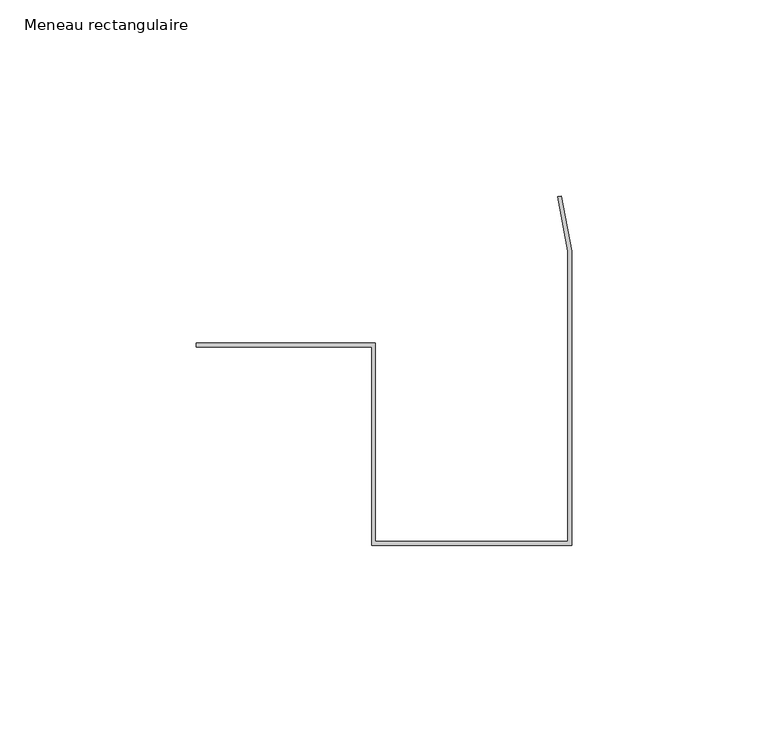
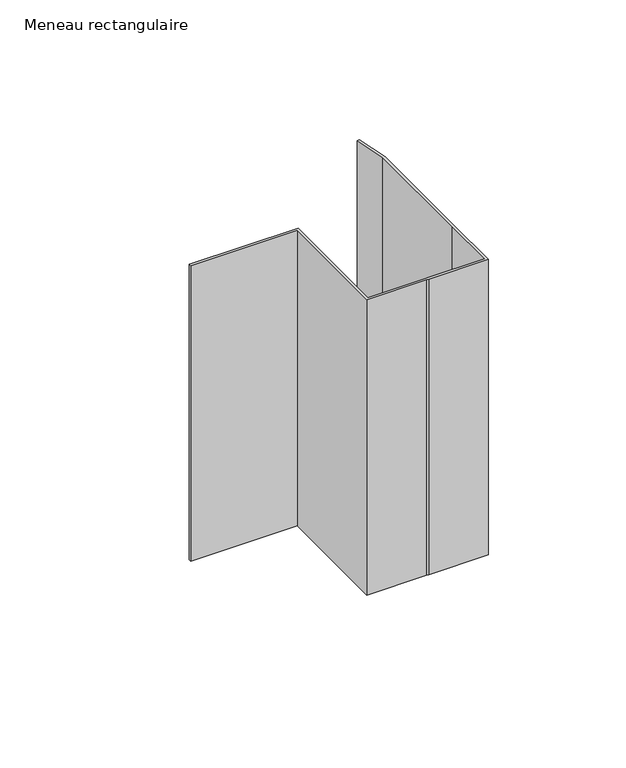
"""IFC4 building model written with IfcOpenShell, lengths in millimetres: member geometry, Meneau rectangulaire : Jonction contre mur Gauche H."""

from ifc_helpers import new_model, si_unit, frame, origin, place, context, project, spatial, polyline, outline, extrude, source, transform, mapped, element, save


def meneau_rectangulaire_9f40be5e(model_context):
    return source(origin(), model_context, "Body", "SweptSolid", [
        extrude(outline(polyline([(-1.0, 26.3950161), (-3.6043568, 40.2612876), (-2.6384309, 40.4427073), (0.0, 26.3950161), (0.0, -23.6049839), (0.0, -48.6049839), (-25.0, -48.6049839), (-26.0, -48.6049839), (-51.0, -48.6049839), (-51.0, 2.0), (-95.6686418, 2.0), (-95.6686418, 3.0), (-50.0, 3.0), (-50.0, -47.6049839), (-26.0, -47.6049839), (-25.0, -47.6049839), (-1.0, -47.6049839), (-1.0, -23.6049839), (-1.0, 26.3950161)])), frame((0.0, 0.0, -131.0), z_axis=(0.0, 0.0, 1.0), x_axis=(1.0, 0.0, 0.0)), (0.0, 0.0, 1.0), 131.0),
    ])


if __name__ == "__main__":
    model = new_model("IFC4")
    model_context = context("Model", 3, world=origin())
    ifc_project = project(units=[si_unit("LENGTHUNIT", "METRE", prefix="MILLI")], contexts=[model_context])
    site = spatial("IfcSite", under=ifc_project)
    building = spatial("IfcBuilding", under=site)
    placement = place(None, origin())
    meneau_rectangulaire_shape = meneau_rectangulaire_9f40be5e(model_context)
    element("IfcMember", 1, ObjectType="Meneau rectangulaire : Jonction contre mur Gauche H", at=placement, inside=building, context=model_context, shape_type="MappedRepresentation", body=[
        mapped(meneau_rectangulaire_shape, transform((0.0, 0.0, 0.0), x_axis=(1.0, 0.0, 0.0), y_axis=(0.0, 1.0, 0.0), z_axis=(0.0, 0.0, 1.0))),
    ])
    save(model, "model.ifc")
